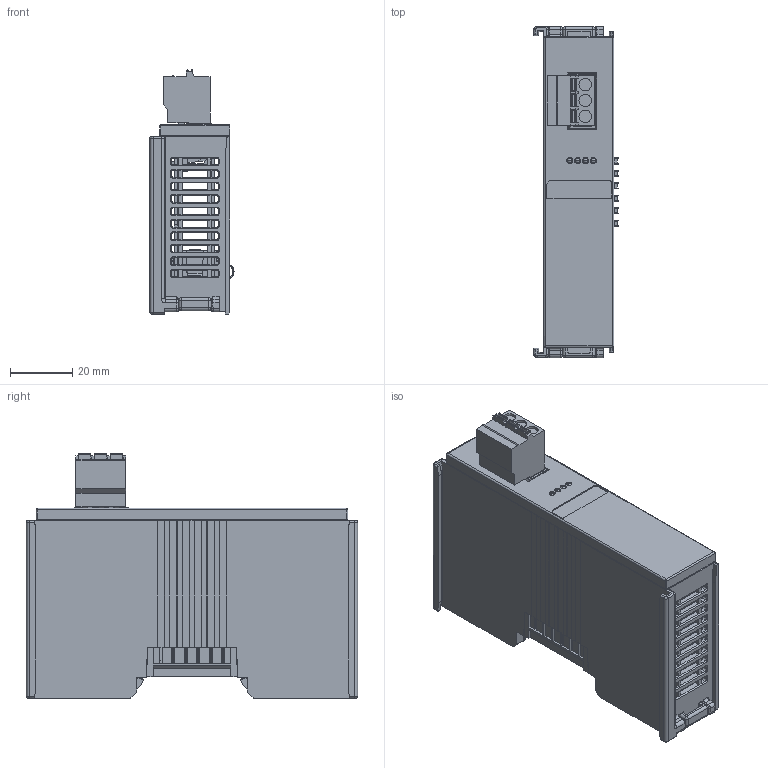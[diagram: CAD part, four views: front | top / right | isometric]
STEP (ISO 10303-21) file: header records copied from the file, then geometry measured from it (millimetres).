
FILE_DESCRIPTION((''),'2;1');
FILE_NAME('ASM0001_ASM','2024-05-22T14:06:46',('董'),(''),'CREO PARAMETRIC BY PTC INC, 2020033','CREO PARAMETRIC BY PTC INC, 2020033','');
FILE_SCHEMA(('CONFIG_CONTROL_DESIGN'));
Products named in the file (3): PRO_XB6S_DC_2; 2EDGKD-5_08-03P-1Y-00A_H_2_; ASM0001_ASM
Assembly tree (2 placements, depth 2):
  ASM0001_ASM
    PRO_XB6S_DC_2
    2EDGKD-5_08-03P-1Y-00A_H_2_
Bounding box: 27.05 x 106.4 x 78.4 mm (x, y, z)
Volume: 50290.4 mm3; surface area: 63388.8 mm2
Topology: 2 solids, 2 shells, 5309 faces, 15500 edges, 9882 vertices
Faces by surface type: plane 3401, cylinder 1394, bspline 312, torus 93, cone 51, sphere 48, extrusion 10
Entity records: 187401 total; most frequent: CARTESIAN_POINT 49947, ORIENTED_EDGE 30904, DIRECTION 25579, EDGE_CURVE 15452, VECTOR 11359, LINE 11349, VERTEX_POINT 9882, AXIS2_PLACEMENT_3D 7110
